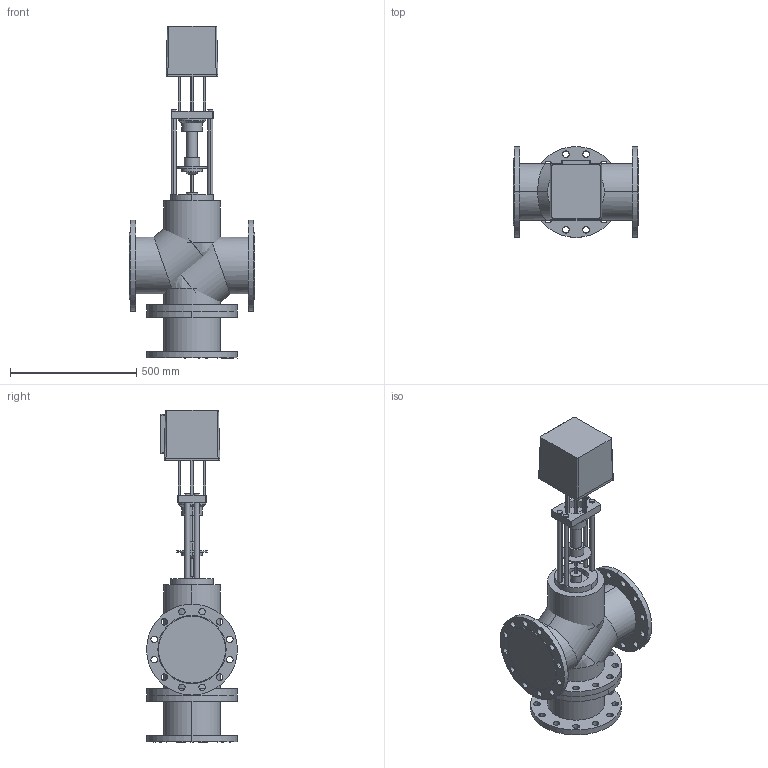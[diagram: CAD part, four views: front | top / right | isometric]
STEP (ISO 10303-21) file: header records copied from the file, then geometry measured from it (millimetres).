
FILE_DESCRIPTION(/* description */ (''),/* implementation_level */ '2;1');
FILE_NAME(/* name */ 'ТРК DN200 PN 2.5 МПа LEA 16000',/* time_stamp */ '2026-07-14T23:07:09+03:00',/* author */ (''),/* organization */ (''),/* preprocessor_version */ 'ST-DEVELOPER v20',/* originating_system */ '',/* authorisation */ '');
FILE_SCHEMA (('AP242_MANAGED_MODEL_BASED_3D_ENGINEERING_MIM_LF { 1 0 10303 442 1 1 4 }'));
Length unit declared in the file: millimetre
Products named in the file (16): TopLevelAssembly; Выдавливание; Модификатор; Модификатор_1; Выдавливание_
1; Выдавливание_
2; Вращение; Выдавливание_
3; Выдавливание_
4; Выдавливание_
5; Выдавливание_
6; Выдавливание_
7; 1600; Переход; Объемная геометрия 
присоединена; Объемная геометрия 
присоединена_1
Assembly tree (15 placements, depth 2):
  TopLevelAssembly
    Выдавливание
    Модификатор
    Модификатор_1
    Выдавливание_
1
    Выдавливание_
2
    Вращение
    Выдавливание_
3
    Выдавливание_
4
    Выдавливание_
5
    Выдавливание_
6
    Выдавливание_
7
    1600
    Переход
    Объемная геометрия 
присоединена
    Объемная геометрия 
присоединена_1
Bounding box: 495 x 360 x 1314 mm (x, y, z)
Volume: 65299055.9 mm3; surface area: 3114201.2 mm2
Topology: 23 solids, 23 shells, 326 faces, 791 edges, 514 vertices
Faces by surface type: cylinder 216, plane 94, bspline 12, cone 4
Entity records: 10758 total; most frequent: DIRECTION 1936, CARTESIAN_POINT 1878, ORIENTED_EDGE 1566, AXIS2_PLACEMENT_3D 808, EDGE_CURVE 783, VERTEX_POINT 514, EDGE_LOOP 469, CIRCLE 451
